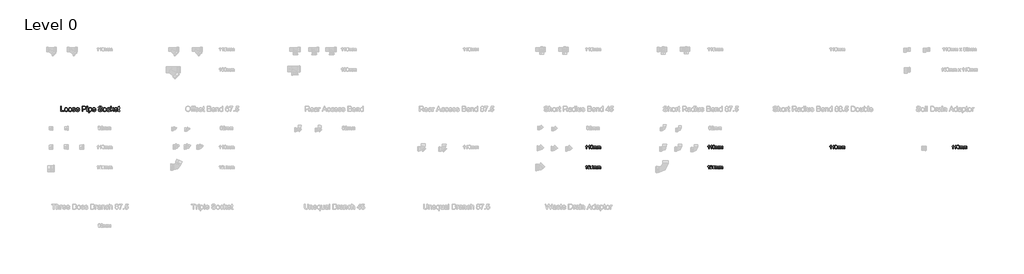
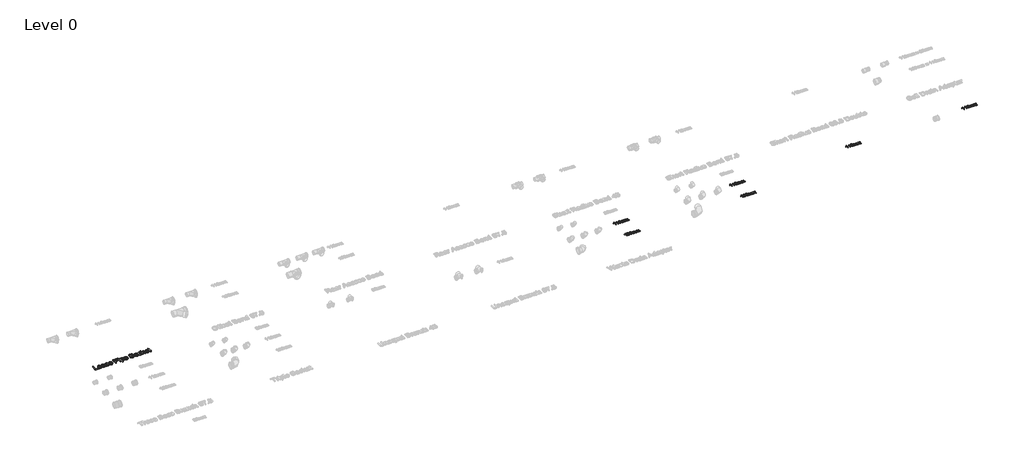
# One storey, part 5 of 23: 7 proxies.
"""IFC4 building model written with IfcOpenShell, lengths in millimetres."""

from ifc_helpers import new_model, si_unit, origin, origin_with_axes, place, context, project, spatial, polyline, outline, extrude, element, save

model = new_model("IFC4")

# Units and contexts
model_context = context("Model", 3, world=origin())
ifc_project = project(units=[si_unit("LENGTHUNIT", "METRE", prefix="MILLI")], contexts=[model_context])

# Site, building, storey
site = spatial("IfcSite", under=ifc_project)
building = spatial("IfcBuilding", under=site)
storey = spatial("IfcBuildingStorey", under=building, Name="Level 0", Elevation=0.0)

# Proxies
placement = place(None, origin())
element("IfcBuildingElementProxy", 1, Name="100mm Arial", ObjectType="100mm Arial", at=placement, inside=storey, context=model_context, shape_type="SweptSolid", body=[
    extrude(outline(polyline([(-6791.7293188, -162.2832696), (-6804.0370111, -162.2832696), (-6804.0370111, -85.5525004), (-6815.6956649, -93.8577889), (-6828.6523957, -100.0717312), (-6828.6523957, -88.4371158), (-6810.6115303, -76.9226927), (-6799.6620111, -63.8217312), (-6791.7293188, -63.8217312), (-6791.7293188, -162.2832696)])), origin_with_axes(), (0.0, 0.0, 1.0), 15.0),
    extrude(outline(polyline([(-6716.3447034, -162.2832696), (-6728.6523957, -162.2832696), (-6728.6523957, -85.5525004), (-6740.3110495, -93.8577889), (-6753.2677803, -100.0717312), (-6753.2677803, -88.4371158), (-6735.2269149, -76.9226927), (-6724.2773957, -63.8217312), (-6716.3447034, -63.8217312), (-6716.3447034, -162.2832696)])), origin_with_axes(), (0.0, 0.0, 1.0), 15.0),
    extrude(outline(polyline([(-6687.1139341, -113.8457696), (-6683.4961457, -85.5164427), (-6672.7509534, -69.1823081), (-6654.8062418, -63.8217312), (-6640.4312418, -66.9948081), (-6630.5033572, -76.1414427), (-6624.7341264, -90.7087504), (-6622.4985495, -113.8457696), (-6626.0802803, -142.0549042), (-6636.7894149, -158.4250965), (-6654.8062418, -163.8217312), (-6667.5947034, -161.4779812), (-6677.3062418, -154.4467312), (-6684.6620111, -137.7940869), (-6687.1139341, -113.8457696)]), holes=[polyline([(-6674.8062418, -113.8217312), (-6673.3639341, -133.1817071), (-6669.0370111, -144.386635), (-6662.5947034, -149.7321879), (-6654.8062418, -151.5140389), (-6647.0177803, -149.7261783), (-6640.5754726, -144.3625965), (-6636.2485495, -133.151659), (-6634.8062418, -113.8217312), (-6636.2004726, -94.8974523), (-6640.3831649, -83.605385), (-6646.8134534, -77.9984139), (-6654.9504726, -76.1294235), (-6662.6547995, -77.7760581), (-6668.8447034, -82.7159619), (-6673.3158572, -94.7111542), (-6674.8062418, -113.8217312)])]), origin_with_axes(), (0.0, 0.0, 1.0), 15.0),
    extrude(outline(polyline([(-6608.6523957, -162.2832696), (-6608.6523957, -89.9755773), (-6596.3447034, -89.9755773), (-6596.3447034, -101.8746158), (-6587.8831649, -92.1270196), (-6575.8398957, -88.4371158), (-6563.5081649, -92.199135), (-6556.7293188, -102.7400004), (-6547.1259534, -92.0128369), (-6534.9985495, -88.4371158), (-6525.7467466, -89.9244956), (-6518.9047995, -94.386635), (-6514.6770351, -101.9437264), (-6513.2677803, -112.7159619), (-6513.2677803, -162.2832696), (-6525.5754726, -162.2832696), (-6525.5754726, -118.0044235), (-6526.7172995, -107.7279812), (-6530.8519149, -102.667885), (-6537.8831649, -100.7448081), (-6549.9865303, -105.6726927), (-6554.8062418, -121.4659619), (-6554.8062418, -162.2832696), (-6567.1139341, -162.2832696), (-6567.1139341, -116.6342312), (-6569.9624918, -104.7111542), (-6579.3014341, -100.7448081), (-6588.4120111, -103.3890389), (-6594.4697034, -111.1294235), (-6596.3447034, -125.8169235), (-6596.3447034, -162.2832696), (-6608.6523957, -162.2832696)])), origin_with_axes(), (0.0, 0.0, 1.0), 15.0),
    extrude(outline(polyline([(-6494.8062418, -162.2832696), (-6494.8062418, -89.9755773), (-6482.4985495, -89.9755773), (-6482.4985495, -101.8746158), (-6474.0370111, -92.1270196), (-6461.9937418, -88.4371158), (-6449.6620111, -92.199135), (-6442.8831649, -102.7400004), (-6433.2797995, -92.0128369), (-6421.1523957, -88.4371158), (-6411.9005928, -89.9244956), (-6405.0586457, -94.386635), (-6400.8308813, -101.9437264), (-6399.4216264, -112.7159619), (-6399.4216264, -162.2832696), (-6411.7293188, -162.2832696), (-6411.7293188, -118.0044235), (-6412.8711457, -107.7279812), (-6417.0057611, -102.667885), (-6424.0370111, -100.7448081), (-6436.1403764, -105.6726927), (-6440.960088, -121.4659619), (-6440.960088, -162.2832696), (-6453.2677803, -162.2832696), (-6453.2677803, -116.6342312), (-6456.116338, -104.7111542), (-6465.4552803, -100.7448081), (-6474.5658572, -103.3890389), (-6480.6235495, -111.1294235), (-6482.4985495, -125.8169235), (-6482.4985495, -162.2832696), (-6494.8062418, -162.2832696)])), origin_with_axes(), (0.0, 0.0, 1.0), 15.0),
])
element("IfcBuildingElementProxy", 2, Name="100mm Arial", ObjectType="100mm Arial", at=placement, inside=storey, context=model_context, shape_type="SweptSolid", body=[
    extrude(outline(polyline([(-6791.7293188, -742.2832696), (-6804.0370111, -742.2832696), (-6804.0370111, -665.5525004), (-6815.6956649, -673.8577889), (-6828.6523957, -680.0717312), (-6828.6523957, -668.4371158), (-6810.6115303, -656.9226927), (-6799.6620111, -643.8217312), (-6791.7293188, -643.8217312), (-6791.7293188, -742.2832696)])), origin_with_axes(), (0.0, 0.0, 1.0), 15.0),
    extrude(outline(polyline([(-6699.4216264, -669.9755773), (-6711.7293188, -671.5140389), (-6716.3927803, -661.2496158), (-6728.7245111, -656.1294235), (-6739.8302803, -659.1101927), (-6748.2317226, -670.3000965), (-6751.7293188, -692.2351927), (-6740.8759534, -682.4154812), (-6727.4264341, -679.2063465), (-6716.0562418, -681.3998562), (-6706.5129726, -687.980385), (-6700.0406168, -698.0344715), (-6697.8831649, -710.6486542), (-6701.9456649, -727.6318273), (-6713.1235495, -739.6510581), (-6729.2533572, -743.8217312), (-6743.2166986, -741.0573081), (-6754.3374918, -732.7640389), (-6761.6121313, -718.1246158), (-6764.0370111, -696.3217312), (-6761.3447034, -671.80851), (-6753.2677803, -655.0476927), (-6742.2401361, -646.6282215), (-6727.9552803, -643.8217312), (-6717.1560014, -645.55851), (-6708.5081649, -650.7688465), (-6702.4504726, -659.0440869), (-6699.4216264, -669.9755773)]), holes=[polyline([(-6751.7293188, -710.4563465), (-6748.8807611, -721.1174042), (-6741.3086457, -728.8577889), (-6730.2148957, -731.5140389), (-6722.0929005, -730.1378369), (-6715.7076841, -726.0092312), (-6711.5700639, -719.5188465), (-6710.1908572, -711.0573081), (-6711.5520351, -702.9353129), (-6715.6355688, -696.7424042), (-6730.7197034, -691.5140389), (-6745.6115303, -696.7424042), (-6750.1998716, -702.7850725), (-6751.7293188, -710.4563465)])]), origin_with_axes(), (0.0, 0.0, 1.0), 15.0),
    extrude(outline(polyline([(-6687.1139341, -693.8457696), (-6683.4961457, -665.5164427), (-6672.7509534, -649.1823081), (-6654.8062418, -643.8217312), (-6640.4312418, -646.9948081), (-6630.5033572, -656.1414427), (-6624.7341264, -670.7087504), (-6622.4985495, -693.8457696), (-6626.0802803, -722.0549042), (-6636.7894149, -738.4250965), (-6654.8062418, -743.8217312), (-6667.5947034, -741.4779812), (-6677.3062418, -734.4467312), (-6684.6620111, -717.7940869), (-6687.1139341, -693.8457696)]), holes=[polyline([(-6674.8062418, -693.8217312), (-6673.3639341, -713.1817071), (-6669.0370111, -724.386635), (-6662.5947034, -729.7321879), (-6654.8062418, -731.5140389), (-6647.0177803, -729.7261783), (-6640.5754726, -724.3625965), (-6636.2485495, -713.151659), (-6634.8062418, -693.8217312), (-6636.2004726, -674.8974523), (-6640.3831649, -663.605385), (-6646.8134534, -657.9984139), (-6654.9504726, -656.1294235), (-6662.6547995, -657.7760581), (-6668.8447034, -662.7159619), (-6673.3158572, -674.7111542), (-6674.8062418, -693.8217312)])]), origin_with_axes(), (0.0, 0.0, 1.0), 15.0),
    extrude(outline(polyline([(-6608.6523957, -742.2832696), (-6608.6523957, -669.9755773), (-6596.3447034, -669.9755773), (-6596.3447034, -681.8746158), (-6587.8831649, -672.1270196), (-6575.8398957, -668.4371158), (-6563.5081649, -672.199135), (-6556.7293188, -682.7400004), (-6547.1259534, -672.0128369), (-6534.9985495, -668.4371158), (-6525.7467466, -669.9244956), (-6518.9047995, -674.386635), (-6514.6770351, -681.9437264), (-6513.2677803, -692.7159619), (-6513.2677803, -742.2832696), (-6525.5754726, -742.2832696), (-6525.5754726, -698.0044235), (-6526.7172995, -687.7279812), (-6530.8519149, -682.667885), (-6537.8831649, -680.7448081), (-6549.9865303, -685.6726927), (-6554.8062418, -701.4659619), (-6554.8062418, -742.2832696), (-6567.1139341, -742.2832696), (-6567.1139341, -696.6342312), (-6569.9624918, -684.7111542), (-6579.3014341, -680.7448081), (-6588.4120111, -683.3890389), (-6594.4697034, -691.1294235), (-6596.3447034, -705.8169235), (-6596.3447034, -742.2832696), (-6608.6523957, -742.2832696)])), origin_with_axes(), (0.0, 0.0, 1.0), 15.0),
    extrude(outline(polyline([(-6494.8062418, -742.2832696), (-6494.8062418, -669.9755773), (-6482.4985495, -669.9755773), (-6482.4985495, -681.8746158), (-6474.0370111, -672.1270196), (-6461.9937418, -668.4371158), (-6449.6620111, -672.199135), (-6442.8831649, -682.7400004), (-6433.2797995, -672.0128369), (-6421.1523957, -668.4371158), (-6411.9005928, -669.9244956), (-6405.0586457, -674.386635), (-6400.8308813, -681.9437264), (-6399.4216264, -692.7159619), (-6399.4216264, -742.2832696), (-6411.7293188, -742.2832696), (-6411.7293188, -698.0044235), (-6412.8711457, -687.7279812), (-6417.0057611, -682.667885), (-6424.0370111, -680.7448081), (-6436.1403764, -685.6726927), (-6440.960088, -701.4659619), (-6440.960088, -742.2832696), (-6453.2677803, -742.2832696), (-6453.2677803, -696.6342312), (-6456.116338, -684.7111542), (-6465.4552803, -680.7448081), (-6474.5658572, -683.3890389), (-6480.6235495, -691.1294235), (-6482.4985495, -705.8169235), (-6482.4985495, -742.2832696), (-6494.8062418, -742.2832696)])), origin_with_axes(), (0.0, 0.0, 1.0), 15.0),
])
element("IfcBuildingElementProxy", 3, Name="100mm Arial", ObjectType="100mm Arial", at=placement, inside=storey, context=model_context, shape_type="SweptSolid", body=[
    extrude(outline(polyline([(-3291.7293188, -162.2832696), (-3304.0370111, -162.2832696), (-3304.0370111, -85.5525004), (-3315.6956649, -93.8577889), (-3328.6523957, -100.0717312), (-3328.6523957, -88.4371158), (-3310.6115303, -76.9226927), (-3299.6620111, -63.8217312), (-3291.7293188, -63.8217312), (-3291.7293188, -162.2832696)])), origin_with_axes(), (0.0, 0.0, 1.0), 15.0),
    extrude(outline(polyline([(-3216.3447034, -162.2832696), (-3228.6523957, -162.2832696), (-3228.6523957, -85.5525004), (-3240.3110495, -93.8577889), (-3253.2677803, -100.0717312), (-3253.2677803, -88.4371158), (-3235.2269149, -76.9226927), (-3224.2773957, -63.8217312), (-3216.3447034, -63.8217312), (-3216.3447034, -162.2832696)])), origin_with_axes(), (0.0, 0.0, 1.0), 15.0),
    extrude(outline(polyline([(-3187.1139341, -113.8457696), (-3183.4961457, -85.5164427), (-3172.7509534, -69.1823081), (-3154.8062418, -63.8217312), (-3140.4312418, -66.9948081), (-3130.5033572, -76.1414427), (-3124.7341264, -90.7087504), (-3122.4985495, -113.8457696), (-3126.0802803, -142.0549042), (-3136.7894149, -158.4250965), (-3154.8062418, -163.8217312), (-3167.5947034, -161.4779812), (-3177.3062418, -154.4467312), (-3184.6620111, -137.7940869), (-3187.1139341, -113.8457696)]), holes=[polyline([(-3174.8062418, -113.8217312), (-3173.3639341, -133.1817071), (-3169.0370111, -144.386635), (-3162.5947034, -149.7321879), (-3154.8062418, -151.5140389), (-3147.0177803, -149.7261783), (-3140.5754726, -144.3625965), (-3136.2485495, -133.151659), (-3134.8062418, -113.8217312), (-3136.2004726, -94.8974523), (-3140.3831649, -83.605385), (-3146.8134534, -77.9984139), (-3154.9504726, -76.1294235), (-3162.6547995, -77.7760581), (-3168.8447034, -82.7159619), (-3173.3158572, -94.7111542), (-3174.8062418, -113.8217312)])]), origin_with_axes(), (0.0, 0.0, 1.0), 15.0),
    extrude(outline(polyline([(-3108.6523957, -162.2832696), (-3108.6523957, -89.9755773), (-3096.3447034, -89.9755773), (-3096.3447034, -101.8746158), (-3087.8831649, -92.1270196), (-3075.8398957, -88.4371158), (-3063.5081649, -92.199135), (-3056.7293188, -102.7400004), (-3047.1259534, -92.0128369), (-3034.9985495, -88.4371158), (-3025.7467466, -89.9244956), (-3018.9047995, -94.386635), (-3014.6770351, -101.9437264), (-3013.2677803, -112.7159619), (-3013.2677803, -162.2832696), (-3025.5754726, -162.2832696), (-3025.5754726, -118.0044235), (-3026.7172995, -107.7279812), (-3030.8519149, -102.667885), (-3037.8831649, -100.7448081), (-3049.9865303, -105.6726927), (-3054.8062418, -121.4659619), (-3054.8062418, -162.2832696), (-3067.1139341, -162.2832696), (-3067.1139341, -116.6342312), (-3069.9624918, -104.7111542), (-3079.3014341, -100.7448081), (-3088.4120111, -103.3890389), (-3094.4697034, -111.1294235), (-3096.3447034, -125.8169235), (-3096.3447034, -162.2832696), (-3108.6523957, -162.2832696)])), origin_with_axes(), (0.0, 0.0, 1.0), 15.0),
    extrude(outline(polyline([(-2994.8062418, -162.2832696), (-2994.8062418, -89.9755773), (-2982.4985495, -89.9755773), (-2982.4985495, -101.8746158), (-2974.0370111, -92.1270196), (-2961.9937418, -88.4371158), (-2949.6620111, -92.199135), (-2942.8831649, -102.7400004), (-2933.2797995, -92.0128369), (-2921.1523957, -88.4371158), (-2911.9005928, -89.9244956), (-2905.0586457, -94.386635), (-2900.8308813, -101.9437264), (-2899.4216264, -112.7159619), (-2899.4216264, -162.2832696), (-2911.7293188, -162.2832696), (-2911.7293188, -118.0044235), (-2912.8711457, -107.7279812), (-2917.0057611, -102.667885), (-2924.0370111, -100.7448081), (-2936.1403764, -105.6726927), (-2940.960088, -121.4659619), (-2940.960088, -162.2832696), (-2953.2677803, -162.2832696), (-2953.2677803, -116.6342312), (-2956.116338, -104.7111542), (-2965.4552803, -100.7448081), (-2974.5658572, -103.3890389), (-2980.6235495, -111.1294235), (-2982.4985495, -125.8169235), (-2982.4985495, -162.2832696), (-2994.8062418, -162.2832696)])), origin_with_axes(), (0.0, 0.0, 1.0), 15.0),
])
element("IfcBuildingElementProxy", 4, Name="100mm Arial", ObjectType="100mm Arial", at=placement, inside=storey, context=model_context, shape_type="SweptSolid", body=[
    extrude(outline(polyline([(-3291.7293188, -742.2832696), (-3304.0370111, -742.2832696), (-3304.0370111, -665.5525004), (-3315.6956649, -673.8577889), (-3328.6523957, -680.0717312), (-3328.6523957, -668.4371158), (-3310.6115303, -656.9226927), (-3299.6620111, -643.8217312), (-3291.7293188, -643.8217312), (-3291.7293188, -742.2832696)])), origin_with_axes(), (0.0, 0.0, 1.0), 15.0),
    extrude(outline(polyline([(-3199.4216264, -669.9755773), (-3211.7293188, -671.5140389), (-3216.3927803, -661.2496158), (-3228.7245111, -656.1294235), (-3239.8302803, -659.1101927), (-3248.2317226, -670.3000965), (-3251.7293188, -692.2351927), (-3240.8759534, -682.4154812), (-3227.4264341, -679.2063465), (-3216.0562418, -681.3998562), (-3206.5129726, -687.980385), (-3200.0406168, -698.0344715), (-3197.8831649, -710.6486542), (-3201.9456649, -727.6318273), (-3213.1235495, -739.6510581), (-3229.2533572, -743.8217312), (-3243.2166986, -741.0573081), (-3254.3374918, -732.7640389), (-3261.6121313, -718.1246158), (-3264.0370111, -696.3217312), (-3261.3447034, -671.80851), (-3253.2677803, -655.0476927), (-3242.2401361, -646.6282215), (-3227.9552803, -643.8217312), (-3217.1560014, -645.55851), (-3208.5081649, -650.7688465), (-3202.4504726, -659.0440869), (-3199.4216264, -669.9755773)]), holes=[polyline([(-3251.7293188, -710.4563465), (-3248.8807611, -721.1174042), (-3241.3086457, -728.8577889), (-3230.2148957, -731.5140389), (-3222.0929005, -730.1378369), (-3215.7076841, -726.0092312), (-3211.5700639, -719.5188465), (-3210.1908572, -711.0573081), (-3211.5520351, -702.9353129), (-3215.6355688, -696.7424042), (-3230.7197034, -691.5140389), (-3245.6115303, -696.7424042), (-3250.1998716, -702.7850725), (-3251.7293188, -710.4563465)])]), origin_with_axes(), (0.0, 0.0, 1.0), 15.0),
    extrude(outline(polyline([(-3187.1139341, -693.8457696), (-3183.4961457, -665.5164427), (-3172.7509534, -649.1823081), (-3154.8062418, -643.8217312), (-3140.4312418, -646.9948081), (-3130.5033572, -656.1414427), (-3124.7341264, -670.7087504), (-3122.4985495, -693.8457696), (-3126.0802803, -722.0549042), (-3136.7894149, -738.4250965), (-3154.8062418, -743.8217312), (-3167.5947034, -741.4779812), (-3177.3062418, -734.4467312), (-3184.6620111, -717.7940869), (-3187.1139341, -693.8457696)]), holes=[polyline([(-3174.8062418, -693.8217312), (-3173.3639341, -713.1817071), (-3169.0370111, -724.386635), (-3162.5947034, -729.7321879), (-3154.8062418, -731.5140389), (-3147.0177803, -729.7261783), (-3140.5754726, -724.3625965), (-3136.2485495, -713.151659), (-3134.8062418, -693.8217312), (-3136.2004726, -674.8974523), (-3140.3831649, -663.605385), (-3146.8134534, -657.9984139), (-3154.9504726, -656.1294235), (-3162.6547995, -657.7760581), (-3168.8447034, -662.7159619), (-3173.3158572, -674.7111542), (-3174.8062418, -693.8217312)])]), origin_with_axes(), (0.0, 0.0, 1.0), 15.0),
    extrude(outline(polyline([(-3108.6523957, -742.2832696), (-3108.6523957, -669.9755773), (-3096.3447034, -669.9755773), (-3096.3447034, -681.8746158), (-3087.8831649, -672.1270196), (-3075.8398957, -668.4371158), (-3063.5081649, -672.199135), (-3056.7293188, -682.7400004), (-3047.1259534, -672.0128369), (-3034.9985495, -668.4371158), (-3025.7467466, -669.9244956), (-3018.9047995, -674.386635), (-3014.6770351, -681.9437264), (-3013.2677803, -692.7159619), (-3013.2677803, -742.2832696), (-3025.5754726, -742.2832696), (-3025.5754726, -698.0044235), (-3026.7172995, -687.7279812), (-3030.8519149, -682.667885), (-3037.8831649, -680.7448081), (-3049.9865303, -685.6726927), (-3054.8062418, -701.4659619), (-3054.8062418, -742.2832696), (-3067.1139341, -742.2832696), (-3067.1139341, -696.6342312), (-3069.9624918, -684.7111542), (-3079.3014341, -680.7448081), (-3088.4120111, -683.3890389), (-3094.4697034, -691.1294235), (-3096.3447034, -705.8169235), (-3096.3447034, -742.2832696), (-3108.6523957, -742.2832696)])), origin_with_axes(), (0.0, 0.0, 1.0), 15.0),
    extrude(outline(polyline([(-2994.8062418, -742.2832696), (-2994.8062418, -669.9755773), (-2982.4985495, -669.9755773), (-2982.4985495, -681.8746158), (-2974.0370111, -672.1270196), (-2961.9937418, -668.4371158), (-2949.6620111, -672.199135), (-2942.8831649, -682.7400004), (-2933.2797995, -672.0128369), (-2921.1523957, -668.4371158), (-2911.9005928, -669.9244956), (-2905.0586457, -674.386635), (-2900.8308813, -681.9437264), (-2899.4216264, -692.7159619), (-2899.4216264, -742.2832696), (-2911.7293188, -742.2832696), (-2911.7293188, -698.0044235), (-2912.8711457, -687.7279812), (-2917.0057611, -682.667885), (-2924.0370111, -680.7448081), (-2936.1403764, -685.6726927), (-2940.960088, -701.4659619), (-2940.960088, -742.2832696), (-2953.2677803, -742.2832696), (-2953.2677803, -696.6342312), (-2956.116338, -684.7111542), (-2965.4552803, -680.7448081), (-2974.5658572, -683.3890389), (-2980.6235495, -691.1294235), (-2982.4985495, -705.8169235), (-2982.4985495, -742.2832696), (-2994.8062418, -742.2832696)])), origin_with_axes(), (0.0, 0.0, 1.0), 15.0),
])
element("IfcBuildingElementProxy", 5, Name="100mm Arial", ObjectType="100mm Arial", at=placement, inside=storey, context=model_context, shape_type="SweptSolid", body=[
    extrude(outline(polyline([(208.2706812, -162.2832696), (195.9629889, -162.2832696), (195.9629889, -85.5525004), (184.3043351, -93.8577889), (171.3476043, -100.0717312), (171.3476043, -88.4371158), (189.3884697, -76.9226927), (200.3379889, -63.8217312), (208.2706812, -63.8217312), (208.2706812, -162.2832696)])), origin_with_axes(), (0.0, 0.0, 1.0), 15.0),
    extrude(outline(polyline([(283.6552966, -162.2832696), (271.3476043, -162.2832696), (271.3476043, -85.5525004), (259.6889505, -93.8577889), (246.7322197, -100.0717312), (246.7322197, -88.4371158), (264.7730851, -76.9226927), (275.7226043, -63.8217312), (283.6552966, -63.8217312), (283.6552966, -162.2832696)])), origin_with_axes(), (0.0, 0.0, 1.0), 15.0),
    extrude(outline(polyline([(312.8860659, -113.8457696), (316.5038543, -85.5164427), (327.2490466, -69.1823081), (345.1937582, -63.8217312), (359.5687582, -66.9948081), (369.4966428, -76.1414427), (375.2658736, -90.7087504), (377.5014505, -113.8457696), (373.9197197, -142.0549042), (363.2105851, -158.4250965), (345.1937582, -163.8217312), (332.4052966, -161.4779812), (322.6937582, -154.4467312), (315.3379889, -137.7940869), (312.8860659, -113.8457696)]), holes=[polyline([(325.1937582, -113.8217312), (326.6360659, -133.1817071), (330.9629889, -144.386635), (337.4052966, -149.7321879), (345.1937582, -151.5140389), (352.9822197, -149.7261783), (359.4245274, -144.3625965), (363.7514505, -133.151659), (365.1937582, -113.8217312), (363.7995274, -94.8974523), (359.6168351, -83.605385), (353.1865466, -77.9984139), (345.0495274, -76.1294235), (337.3452005, -77.7760581), (331.1552966, -82.7159619), (326.6841428, -94.7111542), (325.1937582, -113.8217312)])]), origin_with_axes(), (0.0, 0.0, 1.0), 15.0),
    extrude(outline(polyline([(391.3476043, -162.2832696), (391.3476043, -89.9755773), (403.6552966, -89.9755773), (403.6552966, -101.8746158), (412.1168351, -92.1270196), (424.1601043, -88.4371158), (436.4918351, -92.199135), (443.2706812, -102.7400004), (452.8740466, -92.0128369), (465.0014505, -88.4371158), (474.2532534, -89.9244956), (481.0952005, -94.386635), (485.3229649, -101.9437264), (486.7322197, -112.7159619), (486.7322197, -162.2832696), (474.4245274, -162.2832696), (474.4245274, -118.0044235), (473.2827005, -107.7279812), (469.1480851, -102.667885), (462.1168351, -100.7448081), (450.0134697, -105.6726927), (445.1937582, -121.4659619), (445.1937582, -162.2832696), (432.8860659, -162.2832696), (432.8860659, -116.6342312), (430.0375082, -104.7111542), (420.6985659, -100.7448081), (411.5879889, -103.3890389), (405.5302966, -111.1294235), (403.6552966, -125.8169235), (403.6552966, -162.2832696), (391.3476043, -162.2832696)])), origin_with_axes(), (0.0, 0.0, 1.0), 15.0),
    extrude(outline(polyline([(505.1937582, -162.2832696), (505.1937582, -89.9755773), (517.5014505, -89.9755773), (517.5014505, -101.8746158), (525.9629889, -92.1270196), (538.0062582, -88.4371158), (550.3379889, -92.199135), (557.1168351, -102.7400004), (566.7202005, -92.0128369), (578.8476043, -88.4371158), (588.0994072, -89.9244956), (594.9413543, -94.386635), (599.1691187, -101.9437264), (600.5783736, -112.7159619), (600.5783736, -162.2832696), (588.2706812, -162.2832696), (588.2706812, -118.0044235), (587.1288543, -107.7279812), (582.9942389, -102.667885), (575.9629889, -100.7448081), (563.8596236, -105.6726927), (559.039912, -121.4659619), (559.039912, -162.2832696), (546.7322197, -162.2832696), (546.7322197, -116.6342312), (543.883662, -104.7111542), (534.5447197, -100.7448081), (525.4341428, -103.3890389), (519.3764505, -111.1294235), (517.5014505, -125.8169235), (517.5014505, -162.2832696), (505.1937582, -162.2832696)])), origin_with_axes(), (0.0, 0.0, 1.0), 15.0),
])
element("IfcBuildingElementProxy", 6, Name="100mm Arial", ObjectType="100mm Arial", at=placement, inside=storey, context=model_context, shape_type="SweptSolid", body=[
    extrude(outline(polyline([(3708.2706812, -162.2832696), (3695.9629889, -162.2832696), (3695.9629889, -85.5525004), (3684.3043351, -93.8577889), (3671.3476043, -100.0717312), (3671.3476043, -88.4371158), (3689.3884697, -76.9226927), (3700.3379889, -63.8217312), (3708.2706812, -63.8217312), (3708.2706812, -162.2832696)])), origin_with_axes(), (0.0, 0.0, 1.0), 15.0),
    extrude(outline(polyline([(3783.6552966, -162.2832696), (3771.3476043, -162.2832696), (3771.3476043, -85.5525004), (3759.6889505, -93.8577889), (3746.7322197, -100.0717312), (3746.7322197, -88.4371158), (3764.7730851, -76.9226927), (3775.7226043, -63.8217312), (3783.6552966, -63.8217312), (3783.6552966, -162.2832696)])), origin_with_axes(), (0.0, 0.0, 1.0), 15.0),
    extrude(outline(polyline([(3812.8860659, -113.8457696), (3816.5038543, -85.5164427), (3827.2490466, -69.1823081), (3845.1937582, -63.8217312), (3859.5687582, -66.9948081), (3869.4966428, -76.1414427), (3875.2658736, -90.7087504), (3877.5014505, -113.8457696), (3873.9197197, -142.0549042), (3863.2105851, -158.4250965), (3845.1937582, -163.8217312), (3832.4052966, -161.4779812), (3822.6937582, -154.4467312), (3815.3379889, -137.7940869), (3812.8860659, -113.8457696)]), holes=[polyline([(3825.1937582, -113.8217312), (3826.6360659, -133.1817071), (3830.9629889, -144.386635), (3837.4052966, -149.7321879), (3845.1937582, -151.5140389), (3852.9822197, -149.7261783), (3859.4245274, -144.3625965), (3863.7514505, -133.151659), (3865.1937582, -113.8217312), (3863.7995274, -94.8974523), (3859.6168351, -83.605385), (3853.1865466, -77.9984139), (3845.0495274, -76.1294235), (3837.3452005, -77.7760581), (3831.1552966, -82.7159619), (3826.6841428, -94.7111542), (3825.1937582, -113.8217312)])]), origin_with_axes(), (0.0, 0.0, 1.0), 15.0),
    extrude(outline(polyline([(3891.3476043, -162.2832696), (3891.3476043, -89.9755773), (3903.6552966, -89.9755773), (3903.6552966, -101.8746158), (3912.1168351, -92.1270196), (3924.1601043, -88.4371158), (3936.4918351, -92.199135), (3943.2706812, -102.7400004), (3952.8740466, -92.0128369), (3965.0014505, -88.4371158), (3974.2532534, -89.9244956), (3981.0952005, -94.386635), (3985.3229649, -101.9437264), (3986.7322197, -112.7159619), (3986.7322197, -162.2832696), (3974.4245274, -162.2832696), (3974.4245274, -118.0044235), (3973.2827005, -107.7279812), (3969.1480851, -102.667885), (3962.1168351, -100.7448081), (3950.0134697, -105.6726927), (3945.1937582, -121.4659619), (3945.1937582, -162.2832696), (3932.8860659, -162.2832696), (3932.8860659, -116.6342312), (3930.0375082, -104.7111542), (3920.6985659, -100.7448081), (3911.5879889, -103.3890389), (3905.5302966, -111.1294235), (3903.6552966, -125.8169235), (3903.6552966, -162.2832696), (3891.3476043, -162.2832696)])), origin_with_axes(), (0.0, 0.0, 1.0), 15.0),
    extrude(outline(polyline([(4005.1937582, -162.2832696), (4005.1937582, -89.9755773), (4017.5014505, -89.9755773), (4017.5014505, -101.8746158), (4025.9629889, -92.1270196), (4038.0062582, -88.4371158), (4050.3379889, -92.199135), (4057.1168351, -102.7400004), (4066.7202005, -92.0128369), (4078.8476043, -88.4371158), (4088.0994072, -89.9244956), (4094.9413543, -94.386635), (4099.1691187, -101.9437264), (4100.5783736, -112.7159619), (4100.5783736, -162.2832696), (4088.2706812, -162.2832696), (4088.2706812, -118.0044235), (4087.1288543, -107.7279812), (4082.9942389, -102.667885), (4075.9629889, -100.7448081), (4063.8596236, -105.6726927), (4059.039912, -121.4659619), (4059.039912, -162.2832696), (4046.7322197, -162.2832696), (4046.7322197, -116.6342312), (4043.883662, -104.7111542), (4034.5447197, -100.7448081), (4025.4341428, -103.3890389), (4019.3764505, -111.1294235), (4017.5014505, -125.8169235), (4017.5014505, -162.2832696), (4005.1937582, -162.2832696)])), origin_with_axes(), (0.0, 0.0, 1.0), 15.0),
])
element("IfcBuildingElementProxy", 7, Name="150mm Arial", ObjectType="150mm Arial", at=placement, inside=storey, context=model_context, shape_type="SweptSolid", body=[
    extrude(outline(polyline([(-21866.7587589, 905.2145219), (-21866.7587589, 1052.9068296), (-21848.2972204, 1052.9068296), (-21848.2972204, 923.6760604), (-21774.4510666, 923.6760604), (-21774.4510666, 905.2145219), (-21866.7587589, 905.2145219)])), origin_with_axes(), (0.0, 0.0, 1.0), 25.0),
    extrude(outline(polyline([(-21760.6049127, 959.4452911), (-21756.6115233, 985.5961325), (-21744.631355, 1003.9765411), (-21729.8296723, 1012.9819498), (-21712.1073166, 1015.9837527), (-21692.7127853, 1012.3284041), (-21677.2214993, 1001.3623585), (-21667.0667517, 983.9510003), (-21663.6818358, 960.9597142), (-21665.17823, 942.3088729), (-21669.6674127, 928.1111565), (-21677.0186747, 917.4786445), (-21687.101307, 909.5234161), (-21699.076968, 904.5609762), (-21712.1073166, 902.9068296), (-21731.7362228, 906.5486565), (-21747.20948, 917.4741373), (-21757.2560546, 935.2505796), (-21760.6049127, 959.4452911)]), holes=[polyline([(-21742.1433743, 959.4813488), (-21740.006956, 942.7731157), (-21733.5977012, 930.86957), (-21723.9522685, 923.7436686), (-21712.1073166, 921.3683681), (-21700.3164512, 923.7571902), (-21690.6890473, 930.9236565), (-21684.2797925, 942.9849546), (-21682.1433743, 960.0582719), (-21684.2933142, 976.2797262), (-21690.7431339, 988.0210123), (-21700.3840594, 995.1469137), (-21712.1073166, 997.5222142), (-21723.9522685, 995.1559282), (-21733.5977012, 988.05707), (-21740.006956, 976.1805676), (-21742.1433743, 959.4813488)])]), origin_with_axes(), (0.0, 0.0, 1.0), 25.0),
    extrude(outline(polyline([(-21647.5279897, 959.4452911), (-21643.5346002, 985.5961325), (-21631.554432, 1003.9765411), (-21616.7527493, 1012.9819498), (-21599.0303935, 1015.9837527), (-21579.6358622, 1012.3284041), (-21564.1445762, 1001.3623585), (-21553.9898286, 983.9510003), (-21550.6049127, 960.9597142), (-21552.101307, 942.3088729), (-21556.5904897, 928.1111565), (-21563.9417517, 917.4786445), (-21574.0243839, 909.5234161), (-21586.0000449, 904.5609762), (-21599.0303935, 902.9068296), (-21618.6592997, 906.5486565), (-21634.132557, 917.4741373), (-21644.1791315, 935.2505796), (-21647.5279897, 959.4452911)]), holes=[polyline([(-21629.0664512, 959.4813488), (-21626.9300329, 942.7731157), (-21620.5207781, 930.86957), (-21610.8753454, 923.7436686), (-21599.0303935, 921.3683681), (-21587.2395281, 923.7571902), (-21577.6121243, 930.9236565), (-21571.2028695, 942.9849546), (-21569.0664512, 960.0582719), (-21571.2163911, 976.2797262), (-21577.6662108, 988.0210123), (-21587.3071363, 995.1469137), (-21599.0303935, 997.5222142), (-21610.8753454, 995.1559282), (-21620.5207781, 988.05707), (-21626.9300329, 976.1805676), (-21629.0664512, 959.4813488)])]), origin_with_axes(), (0.0, 0.0, 1.0), 25.0),
    extrude(outline(polyline([(-21536.7587589, 937.5222142), (-21518.2972204, 939.8299065), (-21515.3855618, 931.9332719), (-21509.7515473, 926.1279835), (-21490.1722204, 921.3683681), (-21471.350105, 925.7313488), (-21465.2202973, 935.9717335), (-21471.3861627, 944.2650027), (-21490.3885666, 949.5294258), (-21518.1890473, 958.5618777), (-21530.3224608, 969.1087527), (-21534.4510666, 984.0005796), (-21531.1337589, 997.7565892), (-21522.0832781, 1008.2674065), (-21510.3464993, 1013.7301469), (-21494.4630858, 1015.9837527), (-21471.9991435, 1012.3599546), (-21457.7202973, 1002.5522623), (-21451.3741435, 985.9837527), (-21469.835682, 983.6760604), (-21476.7767877, 993.8623585), (-21493.0207781, 997.5222142), (-21510.6890473, 994.0246181), (-21515.9895281, 985.8755796), (-21513.7900089, 980.5029835), (-21506.9029897, 976.4284642), (-21491.0015473, 972.4981758), (-21463.9041916, 963.8082719), (-21451.320057, 953.9645219), (-21446.7587589, 937.9188488), (-21452.1133262, 920.2505796), (-21467.5640473, 907.43207), (-21490.4246243, 902.9068296), (-21509.0394079, 905.08832), (-21522.6241435, 911.6327911), (-21531.6926531, 922.4681277), (-21536.7587589, 937.5222142)])), origin_with_axes(), (0.0, 0.0, 1.0), 25.0),
    extrude(outline(polyline([(-21350.0520281, 937.5222142), (-21331.9510666, 935.2145219), (-21338.4730017, 921.5756998), (-21348.8801531, 911.3803873), (-21362.9381459, 905.025219), (-21380.412605, 902.9068296), (-21402.0742637, 906.5621782), (-21418.741932, 917.5282238), (-21429.3699368, 935.0928272), (-21432.912605, 958.5438488), (-21429.3338791, 982.7836325), (-21418.5977012, 1000.9116373), (-21402.1553935, 1012.2157238), (-21381.4582781, 1015.9837527), (-21361.405694, 1012.2247383), (-21345.382557, 1000.947695), (-21334.8762469, 982.8557479), (-21331.3741435, 958.6520219), (-21331.4823166, 953.6760604), (-21414.4510666, 953.6760604), (-21411.2554536, 939.8569498), (-21403.8320762, 929.697695), (-21393.1184344, 923.4506998), (-21380.0520281, 921.3683681), (-21361.9510666, 925.2265411), (-21350.0520281, 937.5222142)]), holes=[polyline([(-21414.4510666, 972.1375988), (-21349.835682, 972.1375988), (-21352.3326772, 981.8912046), (-21357.2275089, 988.8683681), (-21367.99073, 995.3587527), (-21381.5303935, 997.5222142), (-21393.9748046, 995.7959522), (-21404.2647685, 990.6171661), (-21411.4177132, 982.5447503), (-21414.4510666, 972.1375988)])]), origin_with_axes(), (0.0, 0.0, 1.0), 25.0),
    extrude(outline(polyline([(-21252.912605, 905.2145219), (-21252.912605, 1052.9068296), (-21198.1770281, 1052.9068296), (-21176.1097204, 1051.5005796), (-21158.1710185, 1044.5955315), (-21146.5424127, 1030.3166854), (-21142.1433743, 1010.1784642), (-21145.1136267, 992.7716133), (-21154.0243839, 978.2674065), (-21170.6875449, 968.4777431), (-21196.9150089, 965.2145219), (-21234.4510666, 965.2145219), (-21234.4510666, 905.2145219), (-21252.912605, 905.2145219)]), holes=[polyline([(-21234.4510666, 983.6760604), (-21195.8332781, 983.6760604), (-21179.4630858, 985.3707719), (-21168.6457781, 990.4549065), (-21162.6151291, 998.6129594), (-21160.6049127, 1009.5294258), (-21165.3464993, 1024.8178873), (-21177.804432, 1033.1832719), (-21196.2659704, 1034.4452911), (-21234.4510666, 1034.4452911), (-21234.4510666, 983.6760604)])]), origin_with_axes(), (0.0, 0.0, 1.0), 25.0),
    extrude(outline(polyline([(-21119.0664512, 1034.4452911), (-21119.0664512, 1052.9068296), (-21100.6049127, 1052.9068296), (-21100.6049127, 1034.4452911), (-21119.0664512, 1034.4452911)])), origin_with_axes(), (0.0, 0.0, 1.0), 25.0),
    extrude(outline(polyline([(-21119.0664512, 905.2145219), (-21119.0664512, 1013.6760604), (-21100.6049127, 1013.6760604), (-21100.6049127, 905.2145219), (-21119.0664512, 905.2145219)])), origin_with_axes(), (0.0, 0.0, 1.0), 25.0),
    extrude(outline(polyline([(-21072.912605, 863.6760604), (-21072.912605, 1013.6760604), (-21054.4510666, 1013.6760604), (-21054.4510666, 995.5750988), (-21041.6866435, 1010.8815892), (-21024.4510666, 1015.9837527), (-21011.9660906, 1014.1988969), (-21001.0496243, 1008.8443296), (-20992.1614031, 1000.24457), (-20985.7611627, 988.7241373), (-20980.6049127, 960.2746181), (-20982.0607421, 944.4858561), (-20986.42823, 930.3647623), (-20993.5676531, 918.6279835), (-21003.3392877, 909.9921661), (-21014.7199969, 904.6781637), (-21026.6866435, 902.9068296), (-21042.7503454, 907.6484161), (-21054.4510666, 919.6375988), (-21054.4510666, 863.6760604), (-21072.912605, 863.6760604)]), holes=[polyline([(-21054.4510666, 958.5799065), (-21052.4543719, 942.0294258), (-21046.4642877, 930.4549065), (-21037.6256459, 923.6400027), (-21027.0832781, 921.3683681), (-21016.3696363, 923.7211325), (-21007.3056339, 930.7794258), (-21001.1262469, 942.7776229), (-20999.0664512, 959.9500988), (-21001.0766675, 976.4104354), (-21007.1073166, 988.1472142), (-21015.9324368, 995.1784642), (-21026.3260666, 997.5222142), (-21036.7602613, 995.0297262), (-21045.9234223, 987.5522623), (-21052.3191555, 975.3241974), (-21054.4510666, 958.5799065)])]), origin_with_axes(), (0.0, 0.0, 1.0), 25.0),
    extrude(outline(polyline([(-20883.898182, 937.5222142), (-20865.7972204, 935.2145219), (-20872.3191555, 921.5756998), (-20882.726307, 911.3803873), (-20896.7842997, 905.025219), (-20914.2587589, 902.9068296), (-20935.9204175, 906.5621782), (-20952.5880858, 917.5282238), (-20963.2160906, 935.0928272), (-20966.7587589, 958.5438488), (-20963.1800329, 982.7836325), (-20952.443855, 1000.9116373), (-20936.0015473, 1012.2157238), (-20915.304432, 1015.9837527), (-20895.2518478, 1012.2247383), (-20879.2287108, 1000.947695), (-20868.7224007, 982.8557479), (-20865.2202973, 958.6520219), (-20865.3284704, 953.6760604), (-20948.2972204, 953.6760604), (-20945.1016074, 939.8569498), (-20937.67823, 929.697695), (-20926.9645882, 923.4506998), (-20913.898182, 921.3683681), (-20895.7972204, 925.2265411), (-20883.898182, 937.5222142)]), holes=[polyline([(-20948.2972204, 972.1375988), (-20883.6818358, 972.1375988), (-20886.178831, 981.8912046), (-20891.0736627, 988.8683681), (-20901.8368839, 995.3587527), (-20915.3765473, 997.5222142), (-20927.8209584, 995.7959522), (-20938.1109223, 990.6171661), (-20945.2638671, 982.5447503), (-20948.2972204, 972.1375988)])]), origin_with_axes(), (0.0, 0.0, 1.0), 25.0),
    extrude(outline(polyline([(-20793.6818358, 955.9837527), (-20775.2202973, 955.9837527), (-20769.2707781, 937.5041854), (-20754.7395281, 925.8214931), (-20732.600105, 921.3683681), (-20713.3092397, 924.7397623), (-20700.851307, 934.0065892), (-20696.7587589, 946.3924065), (-20699.8236627, 957.9128392), (-20712.3717397, 966.2962527), (-20739.2527493, 973.3455315), (-20768.1890473, 982.4500988), (-20783.8921723, 996.1880796), (-20789.0664512, 1014.541445), (-20787.4663911, 1025.3542455), (-20782.6662108, 1035.4368777), (-20774.7921122, 1043.9825508), (-20763.9702973, 1050.1844738), (-20736.6025089, 1055.2145219), (-20707.3957781, 1049.9500988), (-20696.1998647, 1043.4506998), (-20687.9246243, 1034.4813488), (-20682.6872445, 1023.6009402), (-20680.6049127, 1011.3683681), (-20699.0664512, 1011.3683681), (-20702.4558743, 1022.3839931), (-20709.523182, 1030.3347142), (-20720.5658502, 1035.1484161), (-20735.881355, 1036.7529835), (-20751.5574368, 1035.166445), (-20762.3116435, 1030.4068296), (-20768.5315954, 1023.4026229), (-20770.6049127, 1015.0823104), (-20769.1355618, 1007.9879594), (-20764.7275089, 1002.2818296), (-20734.5832781, 991.9693296), (-20701.9150089, 982.7025027), (-20691.3906699, 976.0047863), (-20684.0484223, 967.7385604), (-20678.2972204, 946.8611565), (-20679.9513671, 935.4804474), (-20684.913807, 924.77582), (-20692.9817156, 915.5630796), (-20703.9522685, 908.6580315), (-20731.8789512, 902.9068296), (-20749.9663911, 904.4573104), (-20764.8537108, 909.1087527), (-20776.7121844, 916.8791854), (-20785.7130858, 927.7866373), (-20791.491331, 941.0738969), (-20793.6818358, 955.9837527)])), origin_with_axes(), (0.0, 0.0, 1.0), 25.0),
    extrude(outline(polyline([(-20657.5279897, 959.4452911), (-20653.5346002, 985.5961325), (-20641.554432, 1003.9765411), (-20626.7527493, 1012.9819498), (-20609.0303935, 1015.9837527), (-20589.6358622, 1012.3284041), (-20574.1445762, 1001.3623585), (-20563.9898286, 983.9510003), (-20560.6049127, 960.9597142), (-20562.101307, 942.3088729), (-20566.5904897, 928.1111565), (-20573.9417517, 917.4786445), (-20584.0243839, 909.5234161), (-20596.0000449, 904.5609762), (-20609.0303935, 902.9068296), (-20628.6592997, 906.5486565), (-20644.132557, 917.4741373), (-20654.1791315, 935.2505796), (-20657.5279897, 959.4452911)]), holes=[polyline([(-20639.0664512, 959.4813488), (-20636.9300329, 942.7731157), (-20630.5207781, 930.86957), (-20620.8753454, 923.7436686), (-20609.0303935, 921.3683681), (-20597.2395281, 923.7571902), (-20587.6121243, 930.9236565), (-20581.2028695, 942.9849546), (-20579.0664512, 960.0582719), (-20581.2163911, 976.2797262), (-20587.6662108, 988.0210123), (-20597.3071363, 995.1469137), (-20609.0303935, 997.5222142), (-20620.8753454, 995.1559282), (-20630.5207781, 988.05707), (-20636.9300329, 976.1805676), (-20639.0664512, 959.4813488)])]), origin_with_axes(), (0.0, 0.0, 1.0), 25.0),
    extrude(outline(polyline([(-20470.6049127, 944.4452911), (-20452.1433743, 942.1375988), (-20457.2906098, 925.7178272), (-20466.9630858, 913.3094738), (-20480.2503454, 905.5074907), (-20496.241932, 902.9068296), (-20515.8798526, 906.5351349), (-20531.2359223, 917.4200508), (-20541.1472805, 935.0838128), (-20544.4510666, 959.0486565), (-20538.8080377, 989.7157238), (-20531.6866435, 1001.2136205), (-20521.6085185, 1009.4212527), (-20509.5517276, 1014.3431277), (-20496.4943358, 1015.9837527), (-20480.8948767, 1013.7301469), (-20468.4234223, 1006.9693296), (-20459.4766074, 996.0618777), (-20454.4510666, 981.3683681), (-20472.912605, 979.0606758), (-20481.476307, 992.8888008), (-20496.350105, 997.5222142), (-20508.280694, 995.2415652), (-20517.7503454, 988.3996181), (-20523.9297324, 976.6267815), (-20525.9895281, 959.5534642), (-20523.9748046, 942.2502791), (-20517.9306339, 930.4368777), (-20508.6322565, 923.6354955), (-20496.8549127, 921.3683681), (-20487.2951171, 922.7836325), (-20479.4570762, 927.0294258), (-20473.7554536, 934.213921), (-20470.6049127, 944.4452911)])), origin_with_axes(), (0.0, 0.0, 1.0), 25.0),
    extrude(outline(polyline([(-20435.9895281, 905.2145219), (-20435.9895281, 1052.9068296), (-20417.5279897, 1052.9068296), (-20417.5279897, 973.5438488), (-20376.1337589, 1013.6760604), (-20350.6049127, 1013.6760604), (-20392.5039512, 973.0390411), (-20348.2972204, 905.2145219), (-20369.8597204, 905.2145219), (-20405.7371243, 960.2025027), (-20417.5279897, 948.7722142), (-20417.5279897, 905.2145219), (-20435.9895281, 905.2145219)])), origin_with_axes(), (0.0, 0.0, 1.0), 25.0),
    extrude(outline(polyline([(-20256.2058743, 937.5222142), (-20238.1049127, 935.2145219), (-20244.6268478, 921.5756998), (-20255.0339993, 911.3803873), (-20269.0919921, 905.025219), (-20286.5664512, 902.9068296), (-20308.2281098, 906.5621782), (-20324.8957781, 917.5282238), (-20335.5237829, 935.0928272), (-20339.0664512, 958.5438488), (-20335.4877252, 982.7836325), (-20324.7515473, 1000.9116373), (-20308.3092397, 1012.2157238), (-20287.6121243, 1015.9837527), (-20267.5595401, 1012.2247383), (-20251.5364031, 1000.947695), (-20241.030093, 982.8557479), (-20237.5279897, 958.6520219), (-20237.6361627, 953.6760604), (-20320.6049127, 953.6760604), (-20317.4092997, 939.8569498), (-20309.9859223, 929.697695), (-20299.2722805, 923.4506998), (-20286.2058743, 921.3683681), (-20268.1049127, 925.2265411), (-20256.2058743, 937.5222142)]), holes=[polyline([(-20320.6049127, 972.1375988), (-20255.9895281, 972.1375988), (-20258.4865233, 981.8912046), (-20263.381355, 988.8683681), (-20274.1445762, 995.3587527), (-20287.6842397, 997.5222142), (-20300.1286507, 995.7959522), (-20310.4186147, 990.6171661), (-20317.5715594, 982.5447503), (-20320.6049127, 972.1375988)])]), origin_with_axes(), (0.0, 0.0, 1.0), 25.0),
    extrude(outline(polyline([(-20179.835682, 920.6111565), (-20177.5279897, 904.6736565), (-20191.3380858, 902.9068296), (-20206.8068358, 905.9717335), (-20214.523182, 914.0125988), (-20216.7587589, 934.9621181), (-20216.7587589, 995.2145219), (-20230.6049127, 995.2145219), (-20230.6049127, 1013.6760604), (-20216.7587589, 1013.6760604), (-20216.7587589, 1040.0342335), (-20198.2972204, 1050.8875988), (-20198.2972204, 1013.6760604), (-20179.835682, 1013.6760604), (-20179.835682, 995.2145219), (-20198.2972204, 995.2145219), (-20198.2972204, 935.5029835), (-20197.3236627, 925.9837527), (-20194.1686147, 922.6123585), (-20187.8765473, 921.3683681), (-20179.835682, 920.6111565)])), origin_with_axes(), (0.0, 0.0, 1.0), 25.0),
])

save(model, "model.ifc")
